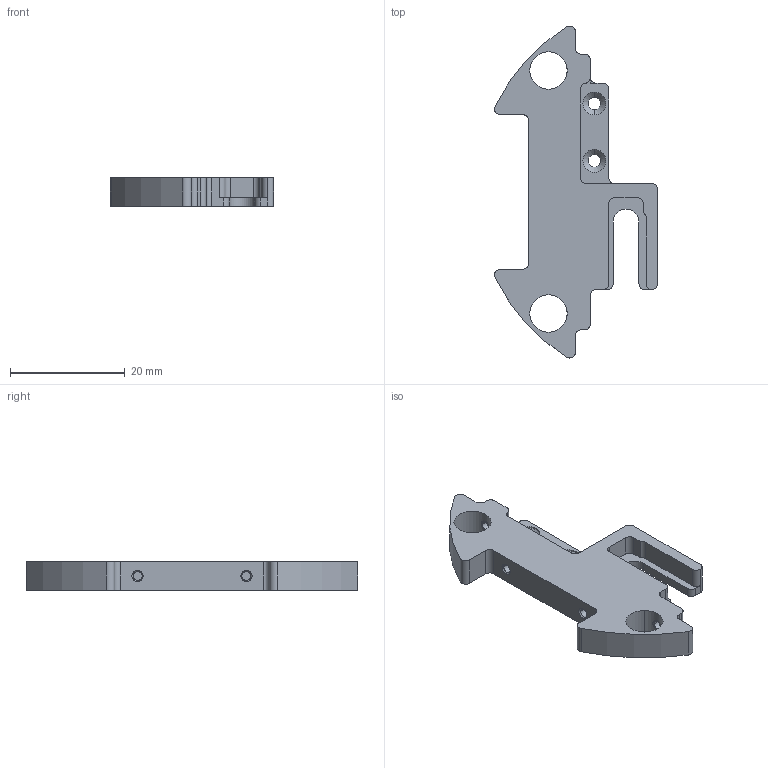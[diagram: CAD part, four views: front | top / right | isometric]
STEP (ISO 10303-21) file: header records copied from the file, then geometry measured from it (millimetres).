
FILE_DESCRIPTION(/* description */ ('(C) Elphel, Inc. 2012. Licensed under CERN OHL v.1.1 or later, see http://ohwr.org/cernohl'),/* implementation_level */ '2;1');
FILE_NAME(/* name */ '0353-19-73B',/* time_stamp */ '2012-12-10T12:41:52-07:00',/* author */ (''),/* organization */ ('Elphel, Inc'),/* preprocessor_version */ 'ST-DEVELOPER v12',/* originating_system */ 'VariCAD 2012-1.04; kernel version (20100102)',/* authorisation */ '');
FILE_SCHEMA (('CONFIG_CONTROL_DESIGN'));
Length unit declared in the file: millimetre
Products named in the file (1): Part
Bounding box: 28.47 x 57.95 x 5 mm (x, y, z)
Volume: 3386.4 mm3; surface area: 3105.9 mm2
Topology: 5 solids, 5 shells, 118 faces, 296 edges, 188 vertices
Faces by surface type: cylinder 71, plane 35, cone 12
Entity records: 3776 total; most frequent: CARTESIAN_POINT 764, DIRECTION 658, ORIENTED_EDGE 592, EDGE_CURVE 296, AXIS2_PLACEMENT_3D 250, VERTEX_POINT 188, LINE 158, VECTOR 158
